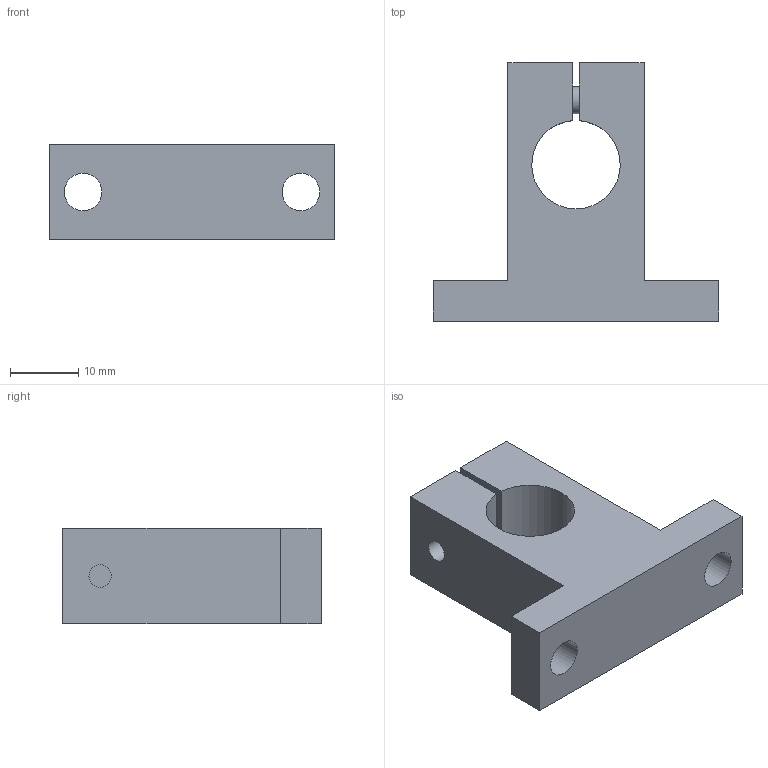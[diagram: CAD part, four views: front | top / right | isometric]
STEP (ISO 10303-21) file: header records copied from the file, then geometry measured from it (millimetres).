
FILE_DESCRIPTION(('STEP AP203'),'1');
FILE_NAME('//192.168.1.1/share/s-4 技術開発/s-4-14_個人別フォルダ/橋詰/09_CAD_DATA/3D/HP用/3Ｄモデル/SN-A/SN-13A.step','2021-09-16T02:43:31',(' '),(' '),'Spatial InterOp 3D',' ',' ');
FILE_SCHEMA(('CONFIG_CONTROL_DESIGN'));
Length unit declared in the file: millimetre
Products named in the file (2): 1; 2
Bounding box: 42 x 38 x 14 mm (x, y, z)
Volume: 10130.4 mm3; surface area: 5202.2 mm2
Topology: 2 solids, 2 shells, 34 faces, 84 edges, 57 vertices
Faces by surface type: plane 24, cylinder 9, cone 1
Full cylindrical faces by diameter (mm): 3.3 x1, 4 x2, 4.5 x1, 5.5 x2, 7 x1, 8 x1
Entity records: 1054 total; most frequent: CARTESIAN_POINT 191, DIRECTION 158, ORIENTED_EDGE 140, EDGE_CURVE 70, EDGE_LOOP 54, AXIS2_PLACEMENT_3D 53, VERTEX_POINT 52, LINE 52
